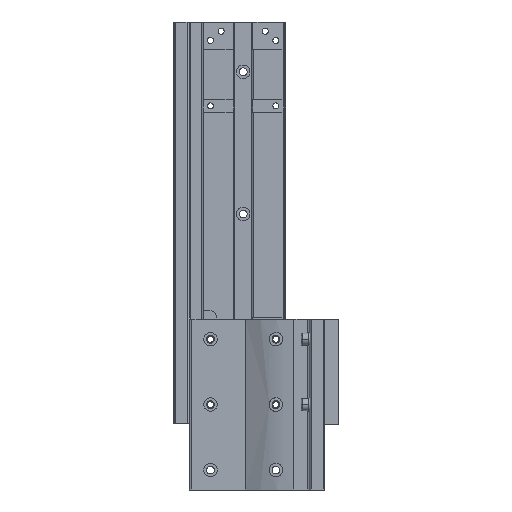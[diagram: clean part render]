
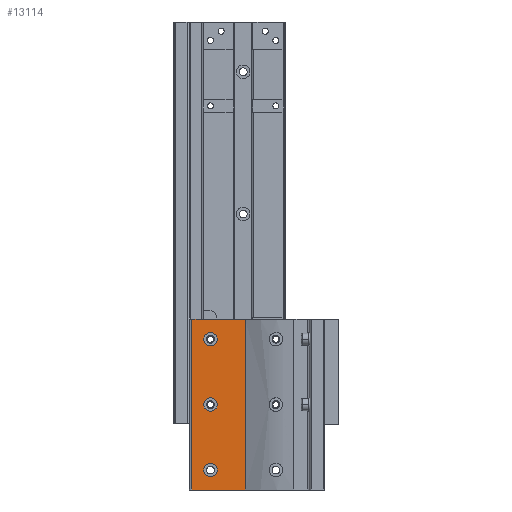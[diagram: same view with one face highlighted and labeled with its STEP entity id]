
A CAD part, left-side view. The second image highlights one B-rep face of the part: STEP entity #13114.
In plain terms, the highlighted planar face has unit normal (-1, 0, 0).
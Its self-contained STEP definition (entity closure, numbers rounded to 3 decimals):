
#258 = ORIENTED_EDGE ( 'NONE', *, *, #8841, .F. ) ;
#507 = CARTESIAN_POINT ( 'NONE',  ( -16., 93.5, 120. ) ) ;
#609 = DIRECTION ( 'NONE',  ( 0., -1., 0. ) ) ;
#644 = VERTEX_POINT ( 'NONE', #4858 ) ;
#726 = AXIS2_PLACEMENT_3D ( 'NONE', #13153, #12160, #1987 ) ;
#878 = ORIENTED_EDGE ( 'NONE', *, *, #1673, .F. ) ;
#988 = CARTESIAN_POINT ( 'NONE',  ( -16., 56.116, 120. ) ) ;
#1227 = ORIENTED_EDGE ( 'NONE', *, *, #10344, .T. ) ;
#1251 = VERTEX_POINT ( 'NONE', #2932 ) ;
#1356 = ORIENTED_EDGE ( 'NONE', *, *, #11845, .F. ) ;
#1437 = CARTESIAN_POINT ( 'NONE',  ( -16., 80.5, 60. ) ) ;
#1673 = EDGE_CURVE ( 'NONE', #12708, #3285, #8092, .T. ) ;
#1677 = EDGE_LOOP ( 'NONE', ( #878, #9021, #1227, #2457 ) ) ;
#1847 = ORIENTED_EDGE ( 'NONE', *, *, #3075, .F. ) ;
#1987 = DIRECTION ( 'NONE',  ( 0., 0., 1. ) ) ;
#2145 = EDGE_CURVE ( 'NONE', #1251, #8639, #12092, .T. ) ;
#2275 = CARTESIAN_POINT ( 'NONE',  ( -16., 96., 1000. ) ) ;
#2457 = ORIENTED_EDGE ( 'NONE', *, *, #3966, .T. ) ;
#2685 = CARTESIAN_POINT ( 'NONE',  ( -16., 93.5, 1000. ) ) ;
#2729 = ORIENTED_EDGE ( 'NONE', *, *, #12715, .F. ) ;
#2818 = CIRCLE ( 'NONE', #10677, 4.75 ) ;
#2932 = CARTESIAN_POINT ( 'NONE',  ( -16., 80.5, 101.25 ) ) ;
#2958 = VERTEX_POINT ( 'NONE', #4191 ) ;
#3075 = EDGE_CURVE ( 'NONE', #8406, #644, #8253, .T. ) ;
#3228 = AXIS2_PLACEMENT_3D ( 'NONE', #3676, #8944, #9012 ) ;
#3285 = VERTEX_POINT ( 'NONE', #4029 ) ;
#3438 = DIRECTION ( 'NONE',  ( 0., 0., 1. ) ) ;
#3458 = CARTESIAN_POINT ( 'NONE',  ( -16., 80.5, 64.75 ) ) ;
#3540 = CARTESIAN_POINT ( 'NONE',  ( -16., 96., 0. ) ) ;
#3580 = AXIS2_PLACEMENT_3D ( 'NONE', #1437, #12535, #5501 ) ;
#3650 = CARTESIAN_POINT ( 'NONE',  ( -16., 93.5, 120. ) ) ;
#3676 = CARTESIAN_POINT ( 'NONE',  ( -16., 80.5, 14. ) ) ;
#3742 = VERTEX_POINT ( 'NONE', #6875 ) ;
#3966 = EDGE_CURVE ( 'NONE', #2958, #3285, #7795, .T. ) ;
#4029 = CARTESIAN_POINT ( 'NONE',  ( -16., 56.116, 0. ) ) ;
#4046 = CARTESIAN_POINT ( 'NONE',  ( -16., 80.5, 110.75 ) ) ;
#4098 = CARTESIAN_POINT ( 'NONE',  ( -16., 80.5, 106. ) ) ;
#4164 = VERTEX_POINT ( 'NONE', #507 ) ;
#4168 = DIRECTION ( 'NONE',  ( 0., 0., -1. ) ) ;
#4191 = CARTESIAN_POINT ( 'NONE',  ( -16., 93.5, 0. ) ) ;
#4214 = FACE_OUTER_BOUND ( 'NONE', #1677, .T. ) ;
#4277 = FACE_BOUND ( 'NONE', #11294, .T. ) ;
#4413 = PLANE ( 'NONE',  #8182 ) ;
#4858 = CARTESIAN_POINT ( 'NONE',  ( -16., 80.5, 55.25 ) ) ;
#5501 = DIRECTION ( 'NONE',  ( 0., 0., 1. ) ) ;
#5746 = LINE ( 'NONE', #2685, #12196 ) ;
#5826 = CIRCLE ( 'NONE', #726, 4.75 ) ;
#6231 = DIRECTION ( 'NONE',  ( 0., 0., 1. ) ) ;
#6278 = DIRECTION ( 'NONE',  ( 1., 0., 0. ) ) ;
#6292 = ORIENTED_EDGE ( 'NONE', *, *, #7758, .F. ) ;
#6339 = FACE_BOUND ( 'NONE', #11423, .T. ) ;
#6875 = CARTESIAN_POINT ( 'NONE',  ( -16., 80.5, 9.25 ) ) ;
#7073 = CARTESIAN_POINT ( 'NONE',  ( -16., 80.5, 106. ) ) ;
#7177 = ORIENTED_EDGE ( 'NONE', *, *, #2145, .F. ) ;
#7538 = FACE_BOUND ( 'NONE', #7899, .T. ) ;
#7758 = EDGE_CURVE ( 'NONE', #12721, #3742, #9401, .T. ) ;
#7795 = LINE ( 'NONE', #3540, #7901 ) ;
#7899 = EDGE_LOOP ( 'NONE', ( #1356, #7177 ) ) ;
#7901 = VECTOR ( 'NONE', #609, 1000. ) ;
#8092 = LINE ( 'NONE', #8355, #11364 ) ;
#8182 = AXIS2_PLACEMENT_3D ( 'NONE', #2275, #6278, #8536 ) ;
#8253 = CIRCLE ( 'NONE', #3580, 4.75 ) ;
#8355 = CARTESIAN_POINT ( 'NONE',  ( -16., 56.116, 1000. ) ) ;
#8406 = VERTEX_POINT ( 'NONE', #3458 ) ;
#8502 = CARTESIAN_POINT ( 'NONE',  ( -16., 80.5, 14. ) ) ;
#8536 = DIRECTION ( 'NONE',  ( 0., 0., -1. ) ) ;
#8639 = VERTEX_POINT ( 'NONE', #4046 ) ;
#8720 = LINE ( 'NONE', #3650, #9863 ) ;
#8797 = CIRCLE ( 'NONE', #11760, 4.75 ) ;
#8841 = EDGE_CURVE ( 'NONE', #3742, #12721, #8797, .T. ) ;
#8944 = DIRECTION ( 'NONE',  ( -1., 0., 0. ) ) ;
#9012 = DIRECTION ( 'NONE',  ( 0., 0., 1. ) ) ;
#9021 = ORIENTED_EDGE ( 'NONE', *, *, #12624, .F. ) ;
#9054 = CARTESIAN_POINT ( 'NONE',  ( -16., 80.5, 18.75 ) ) ;
#9289 = DIRECTION ( 'NONE',  ( -1., 0., 0. ) ) ;
#9401 = CIRCLE ( 'NONE', #3228, 4.75 ) ;
#9764 = AXIS2_PLACEMENT_3D ( 'NONE', #7073, #11198, #10143 ) ;
#9863 = VECTOR ( 'NONE', #10778, 1000. ) ;
#10143 = DIRECTION ( 'NONE',  ( 0., 0., 1. ) ) ;
#10344 = EDGE_CURVE ( 'NONE', #4164, #2958, #5746, .T. ) ;
#10677 = AXIS2_PLACEMENT_3D ( 'NONE', #4098, #9289, #6231 ) ;
#10778 = DIRECTION ( 'NONE',  ( 0., -1., 0. ) ) ;
#10804 = DIRECTION ( 'NONE',  ( 0., 0., -1. ) ) ;
#11198 = DIRECTION ( 'NONE',  ( -1., 0., 0. ) ) ;
#11294 = EDGE_LOOP ( 'NONE', ( #1847, #2729 ) ) ;
#11364 = VECTOR ( 'NONE', #4168, 1000. ) ;
#11423 = EDGE_LOOP ( 'NONE', ( #6292, #258 ) ) ;
#11760 = AXIS2_PLACEMENT_3D ( 'NONE', #8502, #12541, #3438 ) ;
#11845 = EDGE_CURVE ( 'NONE', #8639, #1251, #2818, .T. ) ;
#12092 = CIRCLE ( 'NONE', #9764, 4.75 ) ;
#12160 = DIRECTION ( 'NONE',  ( -1., 0., 0. ) ) ;
#12196 = VECTOR ( 'NONE', #10804, 1000. ) ;
#12535 = DIRECTION ( 'NONE',  ( -1., 0., 0. ) ) ;
#12541 = DIRECTION ( 'NONE',  ( -1., 0., 0. ) ) ;
#12624 = EDGE_CURVE ( 'NONE', #4164, #12708, #8720, .T. ) ;
#12708 = VERTEX_POINT ( 'NONE', #988 ) ;
#12715 = EDGE_CURVE ( 'NONE', #644, #8406, #5826, .T. ) ;
#12721 = VERTEX_POINT ( 'NONE', #9054 ) ;
#13114 = ADVANCED_FACE ( 'NONE', ( #7538, #4277, #6339, #4214 ), #4413, .F. ) ;
#13153 = CARTESIAN_POINT ( 'NONE',  ( -16., 80.5, 60. ) ) ;
